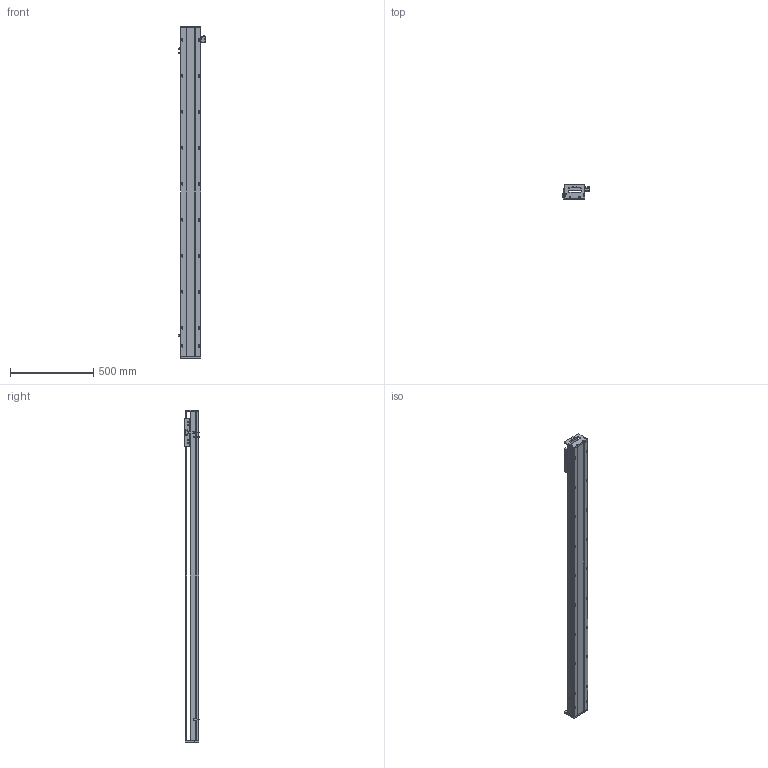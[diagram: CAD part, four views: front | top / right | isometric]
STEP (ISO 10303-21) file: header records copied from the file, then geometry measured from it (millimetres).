
FILE_DESCRIPTION (( 'STEP AP203' ), '1' );
FILE_NAME ('SKR12S-C1-S1722（简）.STEP', '2022-09-26T02:57:12', ( '' ), ( '' ), 'SwSTEP 2.0', 'SolidWorks 2018', '' );
FILE_SCHEMA (( 'CONFIG_CONTROL_DESIGN' ));
Length unit declared in the file: millimetre
Products named in the file (8): EE-SX672; 棠掑假蚾輸; SKR12耜啣; SIKO棠掑; SKR12滑台-170L（简）; 覜茼え; SKR12S-C1-S1722（简）; SKR12菁釱-C1-S1722(潠)
Assembly tree (10 placements, depth 2):
  SKR12S-C1-S1722（简）
    SKR12菁釱-C1-S1722(潠)
    SKR12滑台-170L（简）
    SKR12耜啣  x2
    棠掑假蚾輸
    SIKO棠掑
    覜茼え
    EE-SX672  x3
Bounding box: 162.7 x 87.3 x 1992 mm (x, y, z)
Volume: 8598669.3 mm3; surface area: 1358682.7 mm2
Topology: 11 solids, 11 shells, 1090 faces, 2917 edges, 1841 vertices
Faces by surface type: cylinder 523, plane 417, cone 150
Entity records: 30565 total; most frequent: CARTESIAN_POINT 6527, DIRECTION 4959, ORIENTED_EDGE 4766, EDGE_CURVE 2383, AXIS2_PLACEMENT_3D 1849, VERTEX_POINT 1545, VECTOR 1261, LINE 1261
